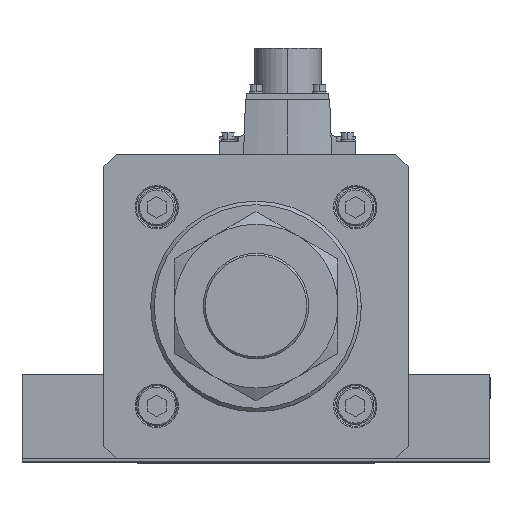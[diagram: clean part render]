
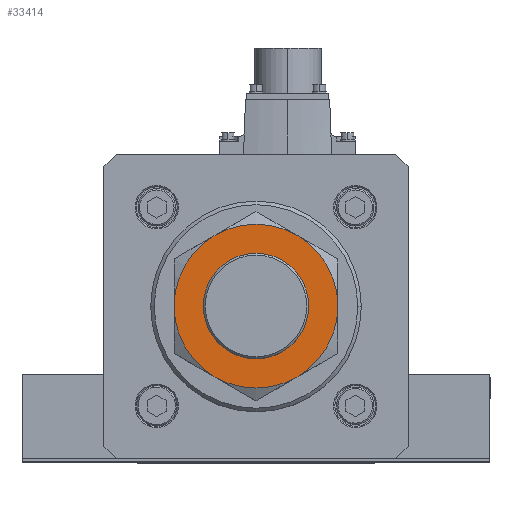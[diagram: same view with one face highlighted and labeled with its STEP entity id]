
A CAD part, top view. The second image highlights one B-rep face of the part: STEP entity #33414.
In plain terms, the highlighted planar face has unit normal (0, 0, 1).
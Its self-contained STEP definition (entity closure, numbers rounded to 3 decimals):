
#110 = VERTEX_POINT ( 'NONE', #13133 ) ;
#355 = EDGE_LOOP ( 'NONE', ( #476, #28460 ) ) ;
#360 = CIRCLE ( 'NONE', #27867, 35. ) ;
#476 = ORIENTED_EDGE ( 'NONE', *, *, #20601, .F. ) ;
#769 = CARTESIAN_POINT ( 'NONE',  ( 22.5, 0., 27. ) ) ;
#963 = DIRECTION ( 'NONE',  ( -1., 0., 0. ) ) ;
#1428 = CIRCLE ( 'NONE', #28619, 35. ) ;
#2397 = DIRECTION ( 'NONE',  ( 0., 0., -1. ) ) ;
#3242 = DIRECTION ( 'NONE',  ( 0., 0., 1. ) ) ;
#3247 = ORIENTED_EDGE ( 'NONE', *, *, #30674, .F. ) ;
#4039 = AXIS2_PLACEMENT_3D ( 'NONE', #29642, #3242, #35559 ) ;
#4055 = DIRECTION ( 'NONE',  ( 0., 0., -1. ) ) ;
#4463 = CARTESIAN_POINT ( 'NONE',  ( 0., 0., 27. ) ) ;
#6673 = VERTEX_POINT ( 'NONE', #35934 ) ;
#7589 = EDGE_CURVE ( 'NONE', #20689, #110, #35748, .T. ) ;
#8197 = CARTESIAN_POINT ( 'NONE',  ( 0., 0., 27. ) ) ;
#9233 = EDGE_CURVE ( 'NONE', #10826, #32455, #1428, .T. ) ;
#9519 = EDGE_CURVE ( 'NONE', #13156, #21217, #33358, .T. ) ;
#10029 = DIRECTION ( 'NONE',  ( 0., 0., -1. ) ) ;
#10826 = VERTEX_POINT ( 'NONE', #24794 ) ;
#11214 = CARTESIAN_POINT ( 'NONE',  ( 0., 0., 27. ) ) ;
#11765 = AXIS2_PLACEMENT_3D ( 'NONE', #20191, #2397, #25958 ) ;
#13133 = CARTESIAN_POINT ( 'NONE',  ( -35., 0., 27. ) ) ;
#13156 = VERTEX_POINT ( 'NONE', #769 ) ;
#13472 = CARTESIAN_POINT ( 'NONE',  ( 0., 0., 27. ) ) ;
#14001 = FACE_BOUND ( 'NONE', #355, .T. ) ;
#14583 = ORIENTED_EDGE ( 'NONE', *, *, #35125, .F. ) ;
#14805 = EDGE_CURVE ( 'NONE', #19027, #6673, #18015, .T. ) ;
#15969 = CIRCLE ( 'NONE', #32997, 35. ) ;
#16062 = ORIENTED_EDGE ( 'NONE', *, *, #9233, .F. ) ;
#16355 = AXIS2_PLACEMENT_3D ( 'NONE', #8197, #26026, #28887 ) ;
#17137 = CIRCLE ( 'NONE', #23430, 22.5 ) ;
#18015 = CIRCLE ( 'NONE', #24185, 35. ) ;
#18118 = CARTESIAN_POINT ( 'NONE',  ( 17.5, 30.311, 27. ) ) ;
#18146 = CARTESIAN_POINT ( 'NONE',  ( 0., 0., 27. ) ) ;
#18707 = CARTESIAN_POINT ( 'NONE',  ( 0., 0., 27. ) ) ;
#19027 = VERTEX_POINT ( 'NONE', #20828 ) ;
#19100 = ORIENTED_EDGE ( 'NONE', *, *, #36998, .F. ) ;
#20072 = DIRECTION ( 'NONE',  ( 1., 0., 0. ) ) ;
#20191 = CARTESIAN_POINT ( 'NONE',  ( 0., 0., 27. ) ) ;
#20249 = ORIENTED_EDGE ( 'NONE', *, *, #14805, .F. ) ;
#20601 = EDGE_CURVE ( 'NONE', #21217, #13156, #17137, .T. ) ;
#20638 = DIRECTION ( 'NONE',  ( -1., 0., 0. ) ) ;
#20689 = VERTEX_POINT ( 'NONE', #23632 ) ;
#20828 = CARTESIAN_POINT ( 'NONE',  ( 35., 0., 27. ) ) ;
#21217 = VERTEX_POINT ( 'NONE', #23590 ) ;
#23430 = AXIS2_PLACEMENT_3D ( 'NONE', #32404, #34989, #20072 ) ;
#23590 = CARTESIAN_POINT ( 'NONE',  ( -22.5, 0., 27. ) ) ;
#23632 = CARTESIAN_POINT ( 'NONE',  ( -17.5, -30.311, 27. ) ) ;
#24185 = AXIS2_PLACEMENT_3D ( 'NONE', #18146, #26782, #20638 ) ;
#24794 = CARTESIAN_POINT ( 'NONE',  ( -17.5, 30.311, 27. ) ) ;
#25041 = FACE_OUTER_BOUND ( 'NONE', #29715, .T. ) ;
#25211 = DIRECTION ( 'NONE',  ( -1., 0., 0. ) ) ;
#25902 = PLANE ( 'NONE',  #16355 ) ;
#25958 = DIRECTION ( 'NONE',  ( -1., 0., 0. ) ) ;
#26026 = DIRECTION ( 'NONE',  ( 0., 0., 1. ) ) ;
#26782 = DIRECTION ( 'NONE',  ( 0., 0., -1. ) ) ;
#27666 = CIRCLE ( 'NONE', #30465, 35. ) ;
#27734 = DIRECTION ( 'NONE',  ( -1., 0., 0. ) ) ;
#27867 = AXIS2_PLACEMENT_3D ( 'NONE', #13472, #28054, #25211 ) ;
#28054 = DIRECTION ( 'NONE',  ( 0., 0., -1. ) ) ;
#28460 = ORIENTED_EDGE ( 'NONE', *, *, #9519, .F. ) ;
#28583 = ORIENTED_EDGE ( 'NONE', *, *, #7589, .F. ) ;
#28619 = AXIS2_PLACEMENT_3D ( 'NONE', #18707, #10029, #963 ) ;
#28887 = DIRECTION ( 'NONE',  ( 1., 0., 0. ) ) ;
#29642 = CARTESIAN_POINT ( 'NONE',  ( 0., 0., 27. ) ) ;
#29715 = EDGE_LOOP ( 'NONE', ( #20249, #3247, #16062, #14583, #28583, #19100 ) ) ;
#30465 = AXIS2_PLACEMENT_3D ( 'NONE', #4463, #4055, #27734 ) ;
#30674 = EDGE_CURVE ( 'NONE', #32455, #19027, #360, .T. ) ;
#32109 = DIRECTION ( 'NONE',  ( -1., 0., 0. ) ) ;
#32404 = CARTESIAN_POINT ( 'NONE',  ( 0., 0., 27. ) ) ;
#32455 = VERTEX_POINT ( 'NONE', #18118 ) ;
#32997 = AXIS2_PLACEMENT_3D ( 'NONE', #11214, #34822, #32109 ) ;
#33358 = CIRCLE ( 'NONE', #4039, 22.5 ) ;
#33414 = ADVANCED_FACE ( 'NONE', ( #25041, #14001 ), #25902, .T. ) ;
#34822 = DIRECTION ( 'NONE',  ( 0., 0., -1. ) ) ;
#34989 = DIRECTION ( 'NONE',  ( 0., 0., 1. ) ) ;
#35125 = EDGE_CURVE ( 'NONE', #110, #10826, #27666, .T. ) ;
#35559 = DIRECTION ( 'NONE',  ( 1., 0., 0. ) ) ;
#35748 = CIRCLE ( 'NONE', #11765, 35. ) ;
#35934 = CARTESIAN_POINT ( 'NONE',  ( 17.5, -30.311, 27. ) ) ;
#36998 = EDGE_CURVE ( 'NONE', #6673, #20689, #15969, .T. ) ;
